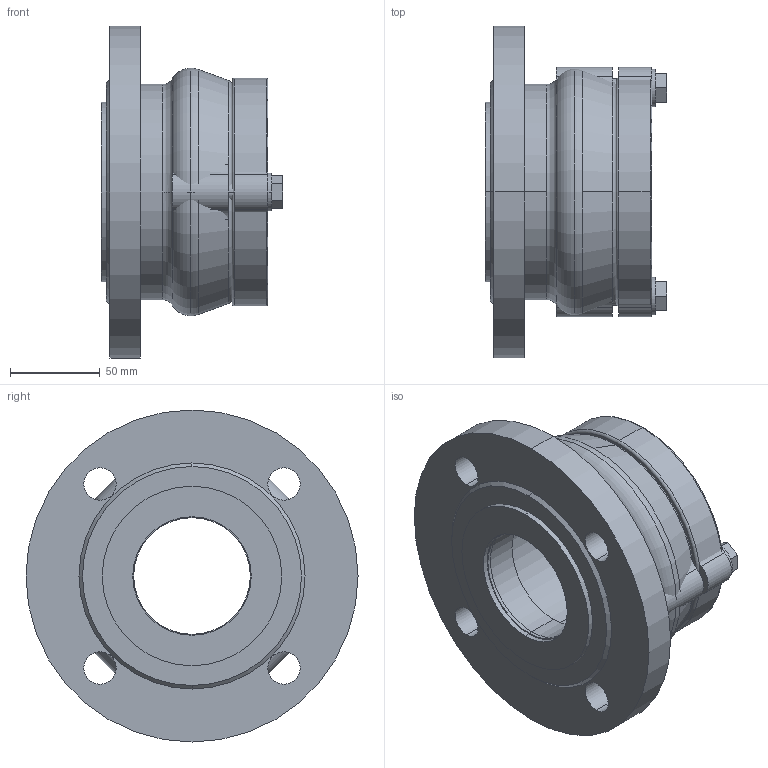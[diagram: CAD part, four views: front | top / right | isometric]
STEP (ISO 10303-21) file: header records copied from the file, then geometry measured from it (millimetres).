
FILE_DESCRIPTION(('STEP AP214'),'1');
FILE_NAME('U:/VDI-Daten/7200-(0400)/7200_PN16_DN65_75.STP','2012-06-15T09:05:05',(' '),(' '),'Spatial InterOp 3D',' ',' ');
FILE_SCHEMA(('automotive_design'));
Length unit declared in the file: millimetre
Products named in the file (16): 3D-Objekt
Bounding box: 101.4 x 185 x 185 mm (x, y, z)
Volume: 1107171.9 mm3; surface area: 213912.4 mm2
Topology: 16 solids, 16 shells, 119 faces, 256 edges, 170 vertices
Faces by surface type: cylinder 56, plane 45, torus 12, cone 6
Entity records: 4674 total; most frequent: DIRECTION 684, CARTESIAN_POINT 561, ORIENTED_EDGE 512, AXIS2_PLACEMENT_3D 293, EDGE_CURVE 256, VERTEX_POINT 170, CIRCLE 158, EDGE_LOOP 140
